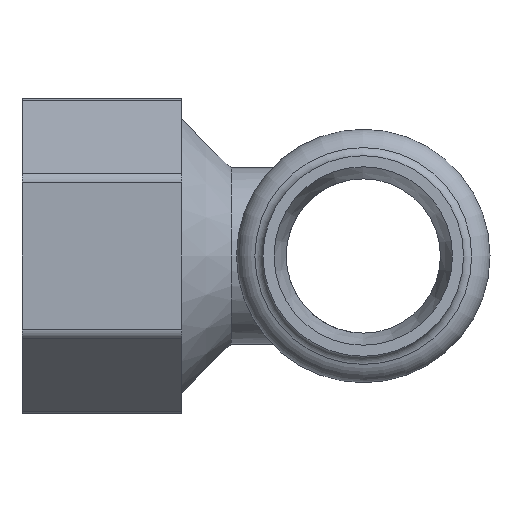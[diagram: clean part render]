
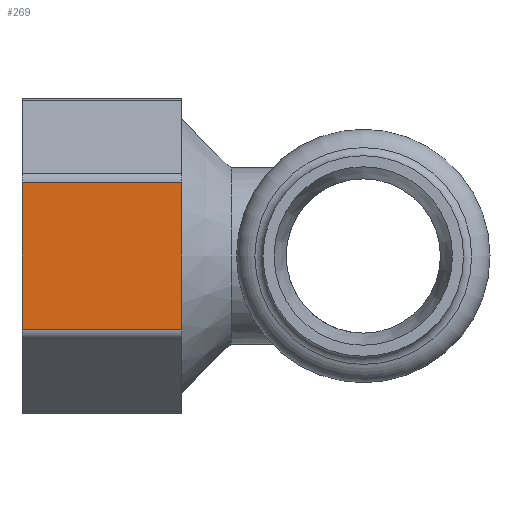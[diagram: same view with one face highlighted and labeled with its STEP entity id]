
A CAD part, left-side view. The second image highlights one B-rep face of the part: STEP entity #269.
In plain terms, the highlighted planar face has unit normal (-1, 0, 0).
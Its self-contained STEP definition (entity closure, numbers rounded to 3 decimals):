
#269=ADVANCED_FACE('',(#333),#321,.T.);
#321=PLANE('',#796);
#333=FACE_OUTER_BOUND('',#349,.T.);
#349=EDGE_LOOP('',(#451,#452,#453,#454));
#451=ORIENTED_EDGE('',*,*,#675,.F.);
#452=ORIENTED_EDGE('',*,*,#676,.T.);
#453=ORIENTED_EDGE('',*,*,#677,.T.);
#454=ORIENTED_EDGE('',*,*,#678,.T.);
#611=VERTEX_POINT('',#1164);
#612=VERTEX_POINT('',#1165);
#613=VERTEX_POINT('',#1167);
#614=VERTEX_POINT('',#1169);
#675=EDGE_CURVE('',#611,#612,#755,.T.);
#676=EDGE_CURVE('',#611,#613,#756,.T.);
#677=EDGE_CURVE('',#613,#614,#757,.T.);
#678=EDGE_CURVE('',#614,#612,#758,.T.);
#755=LINE('',#1163,#781);
#756=LINE('',#1166,#782);
#757=LINE('',#1168,#783);
#758=LINE('',#1170,#784);
#781=VECTOR('',#920,1.);
#782=VECTOR('',#921,1.);
#783=VECTOR('',#922,1.);
#784=VECTOR('',#923,1.);
#796=AXIS2_PLACEMENT_3D('',#1171,#924,#925);
#920=DIRECTION('',(0.,0.,1.));
#921=DIRECTION('',(0.,-1.,0.));
#922=DIRECTION('',(0.,0.,1.));
#923=DIRECTION('',(0.,1.,0.));
#924=DIRECTION('',(-1.,0.,0.));
#925=DIRECTION('',(0.,-1.,0.));
#1163=CARTESIAN_POINT('',(-12.5,30.97,-7.217));
#1164=CARTESIAN_POINT('',(-12.5,30.97,-6.64));
#1165=CARTESIAN_POINT('',(-12.5,30.97,6.64));
#1166=CARTESIAN_POINT('',(-12.5,16.47,-6.64));
#1167=CARTESIAN_POINT('',(-12.5,16.47,-6.64));
#1168=CARTESIAN_POINT('',(-12.5,16.47,-7.217));
#1169=CARTESIAN_POINT('',(-12.5,16.47,6.64));
#1170=CARTESIAN_POINT('',(-12.5,16.47,6.64));
#1171=CARTESIAN_POINT('',(-12.5,16.47,-7.217));
